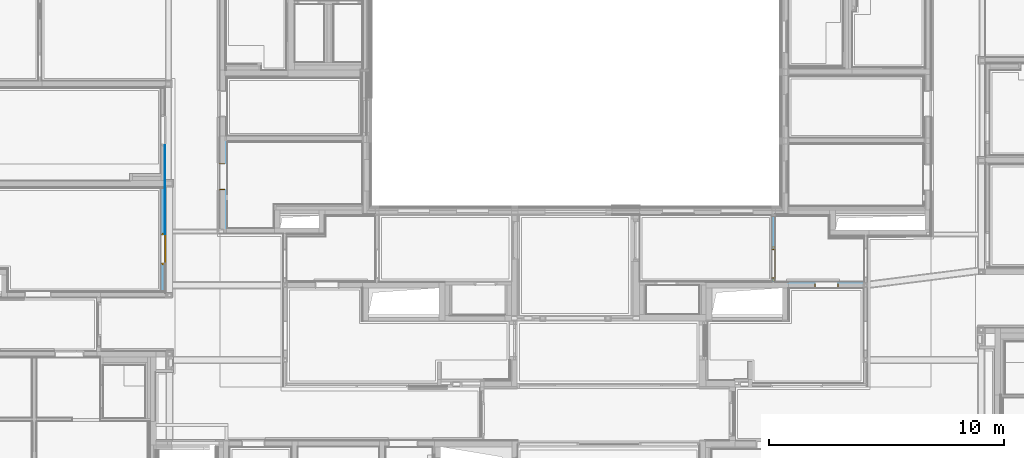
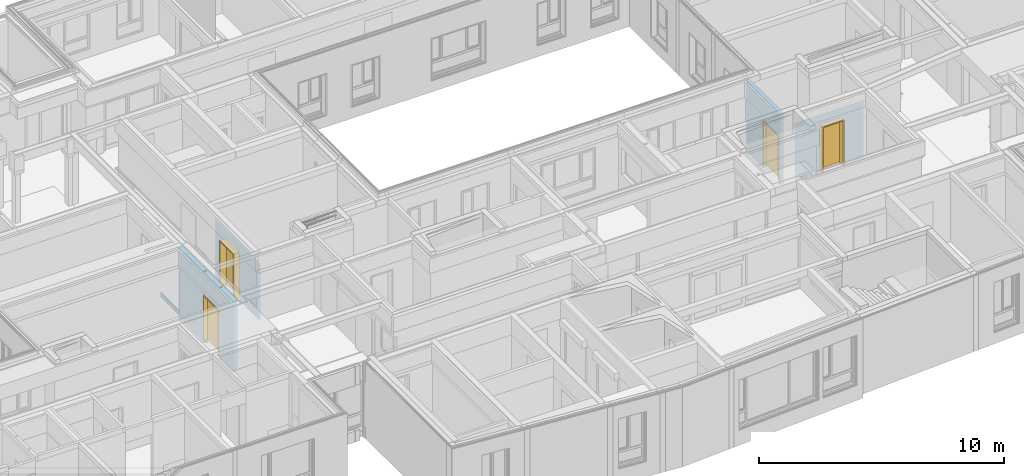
# One storey, part 88 of 222: 4 doors, 1 wall, 4 openings, plus 4 elements that do not belong to this part.
"""IFC4 building model written with IfcOpenShell, lengths in metres."""

from ifc_helpers import new_model, entity, si_unit, converted_unit, derived_unit, frame, frame_2d, origin, origin_with_axes, place, context, subcontext, project, spatial, polyline, rectangle, outline, extrude, faceted_brep, source, transform, mapped, material, type_object, element, fill, save


model = new_model("IFC4")

# Units and contexts
model_context = context("Model", 3, precision=1e-05, world=origin())
body_context = subcontext(model_context, "Body", "Model", "MODEL_VIEW")
ifc_project = project(units=[si_unit("LENGTHUNIT", "METRE"), si_unit("AREAUNIT", "SQUARE_METRE"), si_unit("VOLUMEUNIT", "CUBIC_METRE"), si_unit("MASSUNIT", "GRAM", prefix="KILO"), converted_unit("PLANEANGLEUNIT", "DEGREE", entity("IfcPlaneAngleMeasure", 0.0174532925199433), si_unit("PLANEANGLEUNIT", "RADIAN"), dimensions=[0, 0, 0, 0, 0, 0, 0]), derived_unit("THERMALTRANSMITTANCEUNIT", [(si_unit("POWERUNIT", "WATT"), 1), (si_unit("THERMODYNAMICTEMPERATUREUNIT", "KELVIN"), -1), (si_unit("LENGTHUNIT", "METRE"), -2)]), derived_unit("VOLUMETRICFLOWRATEUNIT", [(si_unit("LENGTHUNIT", "METRE"), 3), (converted_unit("TIMEUNIT", "hour", entity("IfcTimeMeasure", 3600.0), si_unit("TIMEUNIT", "SECOND"), dimensions=[0, 0, 1, 0, 0, 0, 0]), -1), (si_unit("LENGTHUNIT", "METRE"), -1)])], contexts=[model_context])

# Site, building, storey
site_placement = place(None, origin())
site = spatial("IfcSite", under=ifc_project, at=site_placement, Name="Psychiatrie Neubau Wunstorf", CompositionType="ELEMENT")
building_placement = place(site_placement, origin())
building = spatial("IfcBuilding", under=site, at=building_placement, Name="Neubau H2 Stationsgebäude", CompositionType="ELEMENT")
storey_placement = place(building_placement, frame((0.0, 0.0, 3.6)))
storey = spatial("IfcBuildingStorey", under=building, at=storey_placement, Name="H2 Ebene +1", CompositionType="ELEMENT", Elevation=3.6)

# Wall, opening, door
ifc_material_1 = material(Name="WI-LB")
wall_1_placement = place(storey_placement, frame((61.35, 10.0739996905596, 0.0), z_axis=(0.0, 0.0, 1.0), x_axis=(0.0, -1.0, 0.0)))
wall_1 = element("IfcWall", 1, at=wall_1_placement, inside=storey, material=ifc_material_1, context=body_context, shape_type="SweptSolid", body=[
    extrude(rectangle(XDim=2.799, YDim=0.15, at=frame_2d((1.3995, 0.075), x_axis=(1.0, 0.0))), origin_with_axes(), (0.0, 0.0, 1.0), 3.55),
])
opening_1_placement = place(wall_1_placement, frame((2.649, 0.15, 0.0), z_axis=(0.0, -1.0, 0.0), x_axis=(0.0, 0.0, 1.0)))
opening_1 = element("IfcOpeningElement", 2, at=opening_1_placement, cuts=wall_1, Name="Türöffnung", ObjectType="Opening", context=body_context, shape_type="SweptSolid", body=[
    extrude(outline(polyline([(2.41, 1.26), (2.41, 0.0), (0.0, 0.0), (0.0, 1.26), (2.41, 1.26)])), origin_with_axes(), (0.0, 0.0, 1.0), 0.15),
])
ifc_material_2 = material(Name="TI-1F-UZ-D")
door_type_1 = type_object("IfcDoorType", Name="SMT", OperationType="SINGLE_SWING_RIGHT", ParameterTakesPrecedence=False, PredefinedType="DOOR")
shared_shape_1 = source(origin_with_axes(), body_context, "Body", "Brep", [
    faceted_brep([(-0.124999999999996, 0.0249999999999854, 0.0), (-0.0249999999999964, 0.0249999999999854, 0.0), (-0.0249999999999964, 0.124999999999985, 0.0), (-0.124999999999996, 0.124999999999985, 0.0), (-0.124999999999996, 0.124999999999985, 3.55), (-0.0249999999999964, 0.124999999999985, 3.55), (-0.0249999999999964, 0.0249999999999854, 3.55), (-0.124999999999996, 0.0249999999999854, 3.55)], [[[0, 1, 2, 3]], [[4, 5, 6, 7]], [[3, 4, 7, 0]], [[2, 5, 4, 3]], [[1, 6, 5, 2]], [[0, 7, 6, 1]]], orient=[[False], [False], [False], [False], [False], [False]]),
    faceted_brep([(1.285, 0.0249999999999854, 0.0), (1.385, 0.0249999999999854, 0.0), (1.385, 0.124999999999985, 0.0), (1.285, 0.124999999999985, 0.0), (1.285, 0.124999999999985, 3.55), (1.385, 0.124999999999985, 3.55), (1.385, 0.0249999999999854, 3.55), (1.285, 0.0249999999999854, 3.55)], [[[0, 1, 2, 3]], [[4, 5, 6, 7]], [[3, 4, 7, 0]], [[2, 5, 4, 3]], [[1, 6, 5, 2]], [[0, 7, 6, 1]]], orient=[[False], [False], [False], [False], [False], [False]]),
    faceted_brep([(-0.0249999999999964, 0.0249999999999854, 2.435), (1.285, 0.0249999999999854, 2.435), (1.285, 0.124999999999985, 2.435), (-0.0249999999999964, 0.124999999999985, 2.435), (-0.0249999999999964, 0.124999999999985, 2.535), (1.285, 0.124999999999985, 2.535), (1.285, 0.0249999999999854, 2.535), (-0.0249999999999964, 0.0249999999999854, 2.535)], [[[0, 1, 2, 3]], [[4, 5, 6, 7]], [[3, 4, 7, 0]], [[2, 5, 4, 3]], [[1, 6, 5, 2]], [[0, 7, 6, 1]]], orient=[[False], [False], [False], [False], [False], [False]]),
])
shared_shape_2 = source(origin_with_axes(), body_context, "Body", "Brep", [
    faceted_brep([(1.26, -0.0150000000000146, 2.41), (1.26, -0.0150000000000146, 0.15), (1.22, -0.0150000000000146, 0.15), (1.22, -0.0150000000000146, 2.41), (1.26, 0.164999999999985, 0.15), (1.26, 0.164999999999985, 2.41), (1.22, 0.164999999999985, 2.41), (1.22, 0.164999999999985, 0.15)], [[[0, 1, 2, 3]], [[4, 5, 6, 7]], [[1, 0, 5, 4]], [[2, 1, 4, 7]], [[3, 2, 7, 6]], [[0, 3, 6, 5]]], orient=[[False], [False], [False], [False], [False], [False]]),
    faceted_brep([(1.26, -0.0150000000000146, 2.425), (1.275, -0.0150000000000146, 2.425), (1.275, -0.0150000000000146, 0.15), (1.26, -0.0150000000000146, 0.15), (1.26, 0.0, 0.15), (1.275, 0.0, 0.15), (1.275, 0.0, 2.425), (1.26, 0.0, 2.425)], [[[0, 1, 2, 3]], [[4, 5, 6, 7]], [[3, 4, 7, 0]], [[2, 5, 4, 3]], [[1, 6, 5, 2]], [[0, 7, 6, 1]]], orient=[[False], [False], [False], [False], [False], [False]]),
    faceted_brep([(1.26, 0.149999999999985, 2.425), (1.275, 0.149999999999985, 2.425), (1.275, 0.149999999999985, 0.15), (1.26, 0.149999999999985, 0.15), (1.26, 0.164999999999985, 0.15), (1.275, 0.164999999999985, 0.15), (1.275, 0.164999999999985, 2.425), (1.26, 0.164999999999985, 2.425)], [[[0, 1, 2, 3]], [[4, 5, 6, 7]], [[3, 4, 7, 0]], [[2, 5, 4, 3]], [[1, 6, 5, 2]], [[0, 7, 6, 1]]], orient=[[False], [False], [False], [False], [False], [False]]),
    faceted_brep([(0.0400000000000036, -0.0150000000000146, 2.41), (0.0400000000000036, -0.0150000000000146, 0.15), (0.0, -0.0150000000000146, 0.15), (0.0, -0.0150000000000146, 2.41), (0.0400000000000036, 0.164999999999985, 0.15), (0.0400000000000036, 0.164999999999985, 2.41), (0.0, 0.164999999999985, 2.41), (0.0, 0.164999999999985, 0.15)], [[[0, 1, 2, 3]], [[4, 5, 6, 7]], [[1, 0, 5, 4]], [[2, 1, 4, 7]], [[3, 2, 7, 6]], [[0, 3, 6, 5]]], orient=[[False], [False], [False], [False], [False], [False]]),
    faceted_brep([(0.0, -0.0150000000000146, 2.425), (0.0, -0.0150000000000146, 0.15), (-0.0149999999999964, -0.0150000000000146, 0.15), (-0.0149999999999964, -0.0150000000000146, 2.425), (0.0, 0.0, 0.15), (0.0, 0.0, 2.425), (-0.0149999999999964, 0.0, 2.425), (-0.0149999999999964, 0.0, 0.15)], [[[0, 1, 2, 3]], [[4, 5, 6, 7]], [[1, 0, 5, 4]], [[2, 1, 4, 7]], [[3, 2, 7, 6]], [[0, 3, 6, 5]]], orient=[[False], [False], [False], [False], [False], [False]]),
    faceted_brep([(0.0, 0.149999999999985, 2.425), (0.0, 0.149999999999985, 0.15), (-0.0149999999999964, 0.149999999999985, 0.15), (-0.0149999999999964, 0.149999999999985, 2.425), (0.0, 0.164999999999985, 0.15), (0.0, 0.164999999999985, 2.425), (-0.0149999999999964, 0.164999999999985, 2.425), (-0.0149999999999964, 0.164999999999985, 0.15)], [[[0, 1, 2, 3]], [[4, 5, 6, 7]], [[1, 0, 5, 4]], [[2, 1, 4, 7]], [[3, 2, 7, 6]], [[0, 3, 6, 5]]], orient=[[False], [False], [False], [False], [False], [False]]),
    faceted_brep([(1.22, -0.0150000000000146, 2.41), (1.22, -0.0150000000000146, 2.37), (0.0400000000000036, -0.0150000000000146, 2.37), (0.0400000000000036, -0.0150000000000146, 2.41), (1.22, 0.164999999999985, 2.37), (1.22, 0.164999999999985, 2.41), (0.0400000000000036, 0.164999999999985, 2.41), (0.0400000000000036, 0.164999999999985, 2.37)], [[[0, 1, 2, 3]], [[4, 5, 6, 7]], [[1, 0, 5, 4]], [[2, 1, 4, 7]], [[3, 2, 7, 6]], [[0, 3, 6, 5]]], orient=[[False], [False], [False], [False], [False], [False]]),
    faceted_brep([(1.26, -0.0150000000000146, 2.425), (1.26, -0.0150000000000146, 2.41), (0.0, -0.0150000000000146, 2.41), (0.0, -0.0150000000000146, 2.425), (1.26, 0.0, 2.41), (1.26, 0.0, 2.425), (0.0, 0.0, 2.425), (0.0, 0.0, 2.41)], [[[0, 1, 2, 3]], [[4, 5, 6, 7]], [[1, 0, 5, 4]], [[2, 1, 4, 7]], [[3, 2, 7, 6]], [[0, 3, 6, 5]]], orient=[[False], [False], [False], [False], [False], [False]]),
    faceted_brep([(1.26, 0.149999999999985, 2.425), (1.26, 0.149999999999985, 2.41), (0.0, 0.149999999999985, 2.41), (0.0, 0.149999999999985, 2.425), (1.26, 0.164999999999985, 2.41), (1.26, 0.164999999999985, 2.425), (0.0, 0.164999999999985, 2.425), (0.0, 0.164999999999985, 2.41)], [[[0, 1, 2, 3]], [[4, 5, 6, 7]], [[1, 0, 5, 4]], [[2, 1, 4, 7]], [[3, 2, 7, 6]], [[0, 3, 6, 5]]], orient=[[False], [False], [False], [False], [False], [False]]),
    faceted_brep([(1.235, 0.115999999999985, 2.385), (1.235, 0.115999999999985, 0.15), (0.0250000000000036, 0.115999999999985, 0.15), (0.0250000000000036, 0.115999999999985, 2.385), (1.235, 0.165999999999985, 0.15), (1.235, 0.165999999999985, 2.385), (0.0250000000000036, 0.165999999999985, 2.385), (0.0250000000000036, 0.165999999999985, 0.15)], [[[0, 1, 2, 3]], [[4, 5, 6, 7]], [[1, 0, 5, 4]], [[2, 1, 4, 7]], [[3, 2, 7, 6]], [[0, 3, 6, 5]]], orient=[[False], [False], [False], [False], [False], [False]]),
])
door_1_placement = place(opening_1_placement, frame((0.0, 1.26, 0.15), z_axis=(1.0, 0.0, 0.0), x_axis=(0.0, -1.0, 0.0)))
door_1 = element("IfcDoor", 3, at=door_1_placement, inside=storey, type_object=door_type_1, material=ifc_material_2, Name="SMT", OverallHeight=2.41, OverallWidth=1.26, context=body_context, shape_type="MappedRepresentation", body=[
    mapped(shared_shape_1, transform((0.0, 0.0, 0.0), x_axis=(1.0, 0.0, 0.0), y_axis=(0.0, 1.0, 0.0), z_axis=(0.0, 0.0, 1.0), scale=1.0)),
    mapped(shared_shape_2, transform((0.0, 0.0, 0.0), x_axis=(1.0, 0.0, 0.0), y_axis=(0.0, 1.0, 0.0), z_axis=(0.0, 0.0, 1.0), scale=1.0)),
])
fill(opening_1, door_1)

ifc_material_3 = material(Name="WI-LB")
wall_2_placement = place(storey_placement, frame((65.2449963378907, 7.29499969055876, 0.0), z_axis=(0.0, 0.0, 1.0), x_axis=(-1.0, 0.0, 0.0)))
wall_2 = element("IfcWall", 4, at=wall_2_placement, inside=storey, material=ifc_material_3, context=body_context, shape_type="SweptSolid", body=[
    extrude(rectangle(XDim=3.19499633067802, YDim=0.04, at=frame_2d((1.59749816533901, 0.02), x_axis=(1.0, 0.0))), origin_with_axes(), (0.0, 0.0, 1.0), 2.85),
])
opening_2_placement = place(wall_2_placement, frame((1.05999633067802, 0.0, 0.0), z_axis=(0.0, 1.0, 0.0), x_axis=(0.0, 0.0, 1.0)))
opening_2 = element("IfcOpeningElement", 5, at=opening_2_placement, cuts=wall_2, Name="Türöffnung", ObjectType="Opening", context=body_context, shape_type="SweptSolid", body=[
    extrude(outline(polyline([(2.41, 1.01), (2.41, 0.0), (0.0, 0.0), (0.0, 1.01), (2.41, 1.01)])), origin_with_axes(), (0.0, 0.0, 1.0), 0.04),
])
ifc_material_4 = material(Name="TI-1F-UZ-ZK")
door_type_2 = type_object("IfcDoorType", Name="SMT", OperationType="SLIDING_TO_RIGHT", ParameterTakesPrecedence=False, PredefinedType="DOOR")
shared_shape_3 = source(origin_with_axes(), body_context, "Body", "Brep", [
    faceted_brep([(0.0, -0.015, 2.41), (0.04, -0.015, 2.41), (0.04, -0.015, 0.15), (0.0, -0.015, 0.15), (0.0, 0.287, 0.15), (0.04, 0.287, 0.15), (0.04, 0.287, 2.41), (0.0, 0.287, 2.41)], [[[0, 1, 2, 3]], [[4, 5, 6, 7]], [[3, 4, 7, 0]], [[2, 5, 4, 3]], [[1, 6, 5, 2]], [[0, 7, 6, 1]]], orient=[[False], [False], [False], [False], [False], [False]]),
    faceted_brep([(0.0, -0.015, 2.425), (0.0, -0.015, 0.15), (-0.015, -0.015, 0.15), (-0.015, -0.015, 2.425), (0.0, 0.0, 0.15), (0.0, 0.0, 2.425), (-0.015, 0.0, 2.425), (-0.015, 0.0, 0.15)], [[[0, 1, 2, 3]], [[4, 5, 6, 7]], [[1, 0, 5, 4]], [[2, 1, 4, 7]], [[3, 2, 7, 6]], [[0, 3, 6, 5]]], orient=[[False], [False], [False], [False], [False], [False]]),
    faceted_brep([(0.0, 0.272, 2.425), (0.0, 0.272, 0.15), (-0.015, 0.272, 0.15), (-0.015, 0.272, 2.425), (0.0, 0.287, 0.15), (0.0, 0.287, 2.425), (-0.015, 0.287, 2.425), (-0.015, 0.287, 0.15)], [[[0, 1, 2, 3]], [[4, 5, 6, 7]], [[1, 0, 5, 4]], [[2, 1, 4, 7]], [[3, 2, 7, 6]], [[0, 3, 6, 5]]], orient=[[False], [False], [False], [False], [False], [False]]),
    faceted_brep([(0.97, -0.0150000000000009, 2.41), (1.01, -0.0150000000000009, 2.41), (1.01, -0.015, 0.15), (0.97, -0.015, 0.15), (0.97, 0.287, 0.15), (1.01, 0.287, 0.15), (1.01, 0.286999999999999, 2.41), (0.97, 0.286999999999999, 2.41)], [[[0, 1, 2, 3]], [[4, 5, 6, 7]], [[3, 4, 7, 0]], [[2, 5, 4, 3]], [[1, 6, 5, 2]], [[0, 7, 6, 1]]], orient=[[False], [False], [False], [False], [False], [False]]),
    faceted_brep([(1.01, -0.0150000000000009, 2.425), (1.025, -0.0150000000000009, 2.425), (1.025, -0.015, 0.15), (1.01, -0.015, 0.15), (1.01, 0.0, 0.15), (1.025, 0.0, 0.15), (1.025, 0.0, 2.425), (1.01, 0.0, 2.425)], [[[0, 1, 2, 3]], [[4, 5, 6, 7]], [[3, 4, 7, 0]], [[2, 5, 4, 3]], [[1, 6, 5, 2]], [[0, 7, 6, 1]]], orient=[[False], [False], [False], [False], [False], [False]]),
    faceted_brep([(1.01, 0.271999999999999, 2.425), (1.025, 0.271999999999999, 2.425), (1.025, 0.272, 0.15), (1.01, 0.272, 0.15), (1.01, 0.287, 0.15), (1.025, 0.287, 0.15), (1.025, 0.286999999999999, 2.425), (1.01, 0.286999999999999, 2.425)], [[[0, 1, 2, 3]], [[4, 5, 6, 7]], [[3, 4, 7, 0]], [[2, 5, 4, 3]], [[1, 6, 5, 2]], [[0, 7, 6, 1]]], orient=[[False], [False], [False], [False], [False], [False]]),
    faceted_brep([(0.04, -0.015, 2.41), (0.97, -0.0150000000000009, 2.41), (0.97, -0.0150000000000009, 2.37), (0.04, -0.015, 2.37), (0.04, 0.287, 2.37), (0.97, 0.286999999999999, 2.37), (0.97, 0.286999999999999, 2.41), (0.04, 0.287, 2.41)], [[[0, 1, 2, 3]], [[4, 5, 6, 7]], [[3, 4, 7, 0]], [[2, 5, 4, 3]], [[1, 6, 5, 2]], [[0, 7, 6, 1]]], orient=[[False], [False], [False], [False], [False], [False]]),
    faceted_brep([(0.0, -0.015, 2.425), (1.01, -0.0150000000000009, 2.425), (1.01, -0.0150000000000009, 2.41), (0.0, -0.015, 2.41), (0.0, 0.0, 2.41), (1.01, 0.0, 2.41), (1.01, 0.0, 2.425), (0.0, 0.0, 2.425)], [[[0, 1, 2, 3]], [[4, 5, 6, 7]], [[3, 4, 7, 0]], [[2, 5, 4, 3]], [[1, 6, 5, 2]], [[0, 7, 6, 1]]], orient=[[False], [False], [False], [False], [False], [False]]),
    faceted_brep([(0.0, 0.272, 2.425), (1.01, 0.271999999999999, 2.425), (1.01, 0.271999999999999, 2.41), (0.0, 0.272, 2.41), (0.0, 0.287, 2.41), (1.01, 0.286999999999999, 2.41), (1.01, 0.286999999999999, 2.425), (0.0, 0.287, 2.425)], [[[0, 1, 2, 3]], [[4, 5, 6, 7]], [[3, 4, 7, 0]], [[2, 5, 4, 3]], [[1, 6, 5, 2]], [[0, 7, 6, 1]]], orient=[[False], [False], [False], [False], [False], [False]]),
    faceted_brep([(0.025, -0.085, 2.385), (0.985, -0.0850000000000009, 2.385), (0.985, -0.085, 0.15), (0.025, -0.085, 0.15), (0.025, -0.035, 0.15), (0.985, -0.035, 0.15), (0.985, -0.0350000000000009, 2.385), (0.025, -0.035, 2.385)], [[[0, 1, 2, 3]], [[4, 5, 6, 7]], [[3, 4, 7, 0]], [[2, 5, 4, 3]], [[1, 6, 5, 2]], [[0, 7, 6, 1]]], orient=[[False], [False], [False], [False], [False], [False]]),
])
door_2_placement = place(opening_2_placement, frame((0.0, 0.0, 0.0), z_axis=(1.0, 0.0, 0.0), x_axis=(0.0, 1.0, 0.0)))
door_2 = element("IfcDoor", 6, at=door_2_placement, inside=storey, type_object=door_type_2, material=ifc_material_4, Name="SMT", OverallHeight=2.41, OverallWidth=1.01, context=body_context, shape_type="MappedRepresentation", body=[
    mapped(shared_shape_3, transform((0.0, 0.0, 0.0), x_axis=(1.0, 0.0, 0.0), y_axis=(0.0, 1.0, 0.0), z_axis=(0.0, 0.0, 1.0), scale=1.0)),
])
fill(opening_2, door_2)

ifc_material_5 = material(Name="WI-LB")
wall_3_placement = place(storey_placement, frame((38.2045, 9.55599624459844, 0.0), z_axis=(0.0, 0.0, 1.0), x_axis=(1.98715194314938e-15, 1.0, 0.0)))
wall_3 = element("IfcWall", 7, at=wall_3_placement, inside=storey, material=ifc_material_5, context=body_context, shape_type="SweptSolid", body=[
    extrude(rectangle(XDim=3.66150038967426, YDim=0.04, at=frame_2d((1.83075019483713, 0.02), x_axis=(1.0, 0.0))), origin_with_axes(), (0.0, 0.0, 1.0), 2.85),
])
opening_3_placement = place(wall_3_placement, frame((2.76900344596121, 0.0400000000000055, 0.0), z_axis=(0.0, -1.0, 0.0), x_axis=(0.0, 0.0, 1.0)))
opening_3 = element("IfcOpeningElement", 8, at=opening_3_placement, cuts=wall_3, Name="Türöffnung", ObjectType="Opening", context=body_context, shape_type="SweptSolid", body=[
    extrude(outline(polyline([(2.41, 1.135), (2.41, 0.0), (0.0, 0.0), (0.0, 1.135), (2.41, 1.135)])), origin_with_axes(), (0.0, 0.0, 1.0), 0.04),
])
ifc_material_6 = material(Name="TI-1F-UZ-ZK")
door_type_3 = type_object("IfcDoorType", Name="SMT", OperationType="SINGLE_SWING_RIGHT", ParameterTakesPrecedence=False, PredefinedType="DOOR")
shared_shape_4 = source(origin_with_axes(), body_context, "Body", "Brep", [
    faceted_brep([(0.0, -0.0150000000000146, 2.41), (0.0400000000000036, -0.0150000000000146, 2.41), (0.0400000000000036, -0.0150000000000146, 0.15), (0.0, -0.0150000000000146, 0.15), (0.0, 0.336999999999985, 0.15), (0.0400000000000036, 0.336999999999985, 0.15), (0.0400000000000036, 0.336999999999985, 2.41), (0.0, 0.336999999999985, 2.41)], [[[0, 1, 2, 3]], [[4, 5, 6, 7]], [[3, 4, 7, 0]], [[2, 5, 4, 3]], [[1, 6, 5, 2]], [[0, 7, 6, 1]]], orient=[[False], [False], [False], [False], [False], [False]]),
    faceted_brep([(0.0, -0.0150000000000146, 2.425), (0.0, -0.0150000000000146, 0.15), (-0.0149999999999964, -0.0150000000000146, 0.15), (-0.0149999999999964, -0.0150000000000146, 2.425), (0.0, 0.0, 0.15), (0.0, 0.0, 2.425), (-0.0149999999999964, 0.0, 2.425), (-0.0149999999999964, 0.0, 0.15)], [[[0, 1, 2, 3]], [[4, 5, 6, 7]], [[1, 0, 5, 4]], [[2, 1, 4, 7]], [[3, 2, 7, 6]], [[0, 3, 6, 5]]], orient=[[False], [False], [False], [False], [False], [False]]),
    faceted_brep([(0.0, 0.321999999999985, 2.425), (0.0, 0.321999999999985, 0.15), (-0.0149999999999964, 0.321999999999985, 0.15), (-0.0149999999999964, 0.321999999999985, 2.425), (0.0, 0.336999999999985, 0.15), (0.0, 0.336999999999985, 2.425), (-0.0149999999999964, 0.336999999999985, 2.425), (-0.0149999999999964, 0.336999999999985, 0.15)], [[[0, 1, 2, 3]], [[4, 5, 6, 7]], [[1, 0, 5, 4]], [[2, 1, 4, 7]], [[3, 2, 7, 6]], [[0, 3, 6, 5]]], orient=[[False], [False], [False], [False], [False], [False]]),
    faceted_brep([(1.095, -0.0150000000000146, 2.41), (1.135, -0.0150000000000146, 2.41), (1.135, -0.0150000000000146, 0.15), (1.095, -0.0150000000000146, 0.15), (1.095, 0.336999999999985, 0.15), (1.135, 0.336999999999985, 0.15), (1.135, 0.336999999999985, 2.41), (1.095, 0.336999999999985, 2.41)], [[[0, 1, 2, 3]], [[4, 5, 6, 7]], [[3, 4, 7, 0]], [[2, 5, 4, 3]], [[1, 6, 5, 2]], [[0, 7, 6, 1]]], orient=[[False], [False], [False], [False], [False], [False]]),
    faceted_brep([(1.135, -0.0150000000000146, 2.425), (1.15, -0.0150000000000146, 2.425), (1.15, -0.0150000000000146, 0.15), (1.135, -0.0150000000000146, 0.15), (1.135, 0.0, 0.15), (1.15, 0.0, 0.15), (1.15, 0.0, 2.425), (1.135, 0.0, 2.425)], [[[0, 1, 2, 3]], [[4, 5, 6, 7]], [[3, 4, 7, 0]], [[2, 5, 4, 3]], [[1, 6, 5, 2]], [[0, 7, 6, 1]]], orient=[[False], [False], [False], [False], [False], [False]]),
    faceted_brep([(1.135, 0.321999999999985, 2.425), (1.15, 0.321999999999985, 2.425), (1.15, 0.321999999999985, 0.15), (1.135, 0.321999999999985, 0.15), (1.135, 0.336999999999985, 0.15), (1.15, 0.336999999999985, 0.15), (1.15, 0.336999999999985, 2.425), (1.135, 0.336999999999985, 2.425)], [[[0, 1, 2, 3]], [[4, 5, 6, 7]], [[3, 4, 7, 0]], [[2, 5, 4, 3]], [[1, 6, 5, 2]], [[0, 7, 6, 1]]], orient=[[False], [False], [False], [False], [False], [False]]),
    faceted_brep([(0.0400000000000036, -0.0150000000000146, 2.41), (1.095, -0.0150000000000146, 2.41), (1.095, -0.0150000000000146, 2.37), (0.0400000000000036, -0.0150000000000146, 2.37), (0.0400000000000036, 0.336999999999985, 2.37), (1.095, 0.336999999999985, 2.37), (1.095, 0.336999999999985, 2.41), (0.0400000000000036, 0.336999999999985, 2.41)], [[[0, 1, 2, 3]], [[4, 5, 6, 7]], [[3, 4, 7, 0]], [[2, 5, 4, 3]], [[1, 6, 5, 2]], [[0, 7, 6, 1]]], orient=[[False], [False], [False], [False], [False], [False]]),
    faceted_brep([(0.0, -0.0150000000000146, 2.425), (1.135, -0.0150000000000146, 2.425), (1.135, -0.0150000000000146, 2.41), (0.0, -0.0150000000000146, 2.41), (0.0, 0.0, 2.41), (1.135, 0.0, 2.41), (1.135, 0.0, 2.425), (0.0, 0.0, 2.425)], [[[0, 1, 2, 3]], [[4, 5, 6, 7]], [[3, 4, 7, 0]], [[2, 5, 4, 3]], [[1, 6, 5, 2]], [[0, 7, 6, 1]]], orient=[[False], [False], [False], [False], [False], [False]]),
    faceted_brep([(0.0, 0.321999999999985, 2.425), (1.135, 0.321999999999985, 2.425), (1.135, 0.321999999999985, 2.41), (0.0, 0.321999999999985, 2.41), (0.0, 0.336999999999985, 2.41), (1.135, 0.336999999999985, 2.41), (1.135, 0.336999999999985, 2.425), (0.0, 0.336999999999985, 2.425)], [[[0, 1, 2, 3]], [[4, 5, 6, 7]], [[3, 4, 7, 0]], [[2, 5, 4, 3]], [[1, 6, 5, 2]], [[0, 7, 6, 1]]], orient=[[False], [False], [False], [False], [False], [False]]),
    faceted_brep([(0.0250000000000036, 0.287999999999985, 2.385), (1.11, 0.287999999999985, 2.385), (1.11, 0.287999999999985, 0.15), (0.0250000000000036, 0.287999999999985, 0.15), (0.0250000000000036, 0.337999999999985, 0.15), (1.11, 0.337999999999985, 0.15), (1.11, 0.337999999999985, 2.385), (0.0250000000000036, 0.337999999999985, 2.385)], [[[0, 1, 2, 3]], [[4, 5, 6, 7]], [[3, 4, 7, 0]], [[2, 5, 4, 3]], [[1, 6, 5, 2]], [[0, 7, 6, 1]]], orient=[[False], [False], [False], [False], [False], [False]]),
])
door_3_placement = place(opening_3_placement, frame((0.0, 0.0, -0.282), z_axis=(1.0, 0.0, 0.0), x_axis=(0.0, 1.0, 1.98715194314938e-15)))
door_3 = element("IfcDoor", 9, at=door_3_placement, inside=storey, type_object=door_type_3, material=ifc_material_6, Name="SMT", OverallHeight=2.41, OverallWidth=1.135, context=body_context, shape_type="MappedRepresentation", body=[
    mapped(shared_shape_4, transform((0.0, 0.0, 0.0), x_axis=(1.0, 0.0, 0.0), y_axis=(0.0, 1.0, 0.0), z_axis=(0.0, 0.0, 1.0), scale=1.0)),
])
fill(opening_3, door_3)

# Wall
wall_4_placement = place(storey_placement, frame((35.545, 9.30950090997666, -0.05)))
element("IfcWall", 10, at=wall_4_placement, inside=storey, Name="WV 1.1", context=body_context, shape_type="Brep", body=[
    faceted_brep([(0.0, 0.0, 0.0), (0.025, 0.0, 0.0), (0.025, 3.79, 0.0), (0.0, 3.79, 0.0), (0.025, 0.0, 0.25), (0.0, 0.0, 0.25), (0.0, 3.79, 0.25), (0.025, 3.79, 0.25)], [[[0, 1, 2, 3]], [[4, 5, 6, 7]], [[1, 0, 5, 4]], [[2, 1, 4, 7]], [[3, 2, 7, 6]], [[0, 3, 6, 5]]], orient=[[False], [False], [False], [False], [False], [False]]),
])

# Wall, opening, door
ifc_material_7 = material(Name="WI-LB")
wall_5_placement = place(storey_placement, frame((35.57, 6.88399999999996, 0.0), z_axis=(0.0, 0.0, 1.0), x_axis=(0.0, 1.0, 0.0)))
wall_5 = element("IfcWall", 11, at=wall_5_placement, inside=storey, material=ifc_material_7, context=body_context, shape_type="SweptSolid", body=[
    extrude(rectangle(XDim=4.47355754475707, YDim=0.19, at=frame_2d((2.23677877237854, 0.095), x_axis=(1.0, 0.0))), origin_with_axes(), (0.0, 0.0, 1.0), 3.55),
])
opening_4_placement = place(wall_5_placement, frame((2.42600413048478, 0.19, 0.0), z_axis=(0.0, -1.0, 0.0), x_axis=(0.0, 0.0, 1.0)))
opening_4 = element("IfcOpeningElement", 12, at=opening_4_placement, cuts=wall_5, Name="Türöffnung", ObjectType="Opening", context=body_context, shape_type="SweptSolid", body=[
    extrude(outline(polyline([(2.41, 1.26), (2.41, 0.0), (0.0, 0.0), (0.0, 1.26), (2.41, 1.26)])), origin_with_axes(), (0.0, 0.0, 1.0), 0.19),
])
ifc_material_8 = material(Name="TI-1F-UZ-D")
door_type_4 = type_object("IfcDoorType", Name="SMT", OperationType="SINGLE_SWING_RIGHT", ParameterTakesPrecedence=False, PredefinedType="DOOR")
shared_shape_5 = source(origin_with_axes(), body_context, "Body", "Brep", [
    faceted_brep([(-0.0499999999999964, 0.0449999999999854, 0.0), (0.0, 0.0449999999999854, 0.0), (0.0, 0.144999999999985, 0.0), (-0.0499999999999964, 0.144999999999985, 0.0), (-0.0499999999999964, 0.144999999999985, 3.55), (0.0, 0.144999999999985, 3.55), (0.0, 0.0449999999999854, 3.55), (-0.0499999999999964, 0.0449999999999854, 3.55)], [[[0, 1, 2, 3]], [[4, 5, 6, 7]], [[3, 4, 7, 0]], [[2, 5, 4, 3]], [[1, 6, 5, 2]], [[0, 7, 6, 1]]], orient=[[False], [False], [False], [False], [False], [False]]),
    faceted_brep([(1.26, 0.0449999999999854, 0.0), (1.31, 0.0449999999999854, 0.0), (1.31, 0.144999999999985, 0.0), (1.26, 0.144999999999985, 0.0), (1.26, 0.144999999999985, 3.55), (1.31, 0.144999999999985, 3.55), (1.31, 0.0449999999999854, 3.55), (1.26, 0.0449999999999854, 3.55)], [[[0, 1, 2, 3]], [[4, 5, 6, 7]], [[3, 4, 7, 0]], [[2, 5, 4, 3]], [[1, 6, 5, 2]], [[0, 7, 6, 1]]], orient=[[False], [False], [False], [False], [False], [False]]),
    faceted_brep([(0.0, 0.0449999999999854, 2.41), (1.26, 0.0449999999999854, 2.41), (1.26, 0.144999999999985, 2.41), (0.0, 0.144999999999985, 2.41), (0.0, 0.144999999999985, 2.46), (1.26, 0.144999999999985, 2.46), (1.26, 0.0449999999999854, 2.46), (0.0, 0.0449999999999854, 2.46)], [[[0, 1, 2, 3]], [[4, 5, 6, 7]], [[3, 4, 7, 0]], [[2, 5, 4, 3]], [[1, 6, 5, 2]], [[0, 7, 6, 1]]], orient=[[False], [False], [False], [False], [False], [False]]),
])
shared_shape_6 = source(origin_with_axes(), body_context, "Body", "Brep", [
    faceted_brep([(0.0, -0.0150000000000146, 2.41), (0.0400000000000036, -0.0150000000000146, 2.41), (0.0400000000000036, -0.0150000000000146, 0.15), (0.0, -0.0150000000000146, 0.15), (0.0, 0.204999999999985, 0.15), (0.0400000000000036, 0.204999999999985, 0.15), (0.0400000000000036, 0.204999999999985, 2.41), (0.0, 0.204999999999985, 2.41)], [[[0, 1, 2, 3]], [[4, 5, 6, 7]], [[3, 4, 7, 0]], [[2, 5, 4, 3]], [[1, 6, 5, 2]], [[0, 7, 6, 1]]], orient=[[False], [False], [False], [False], [False], [False]]),
    faceted_brep([(0.0, -0.0150000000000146, 2.425), (0.0, -0.0150000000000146, 0.15), (-0.0149999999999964, -0.0150000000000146, 0.15), (-0.0149999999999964, -0.0150000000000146, 2.425), (0.0, 0.0, 0.15), (0.0, 0.0, 2.425), (-0.0149999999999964, 0.0, 2.425), (-0.0149999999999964, 0.0, 0.15)], [[[0, 1, 2, 3]], [[4, 5, 6, 7]], [[1, 0, 5, 4]], [[2, 1, 4, 7]], [[3, 2, 7, 6]], [[0, 3, 6, 5]]], orient=[[False], [False], [False], [False], [False], [False]]),
    faceted_brep([(0.0, 0.189999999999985, 2.425), (0.0, 0.189999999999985, 0.15), (-0.0149999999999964, 0.189999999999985, 0.15), (-0.0149999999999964, 0.189999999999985, 2.425), (0.0, 0.204999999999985, 0.15), (0.0, 0.204999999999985, 2.425), (-0.0149999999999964, 0.204999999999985, 2.425), (-0.0149999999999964, 0.204999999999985, 0.15)], [[[0, 1, 2, 3]], [[4, 5, 6, 7]], [[1, 0, 5, 4]], [[2, 1, 4, 7]], [[3, 2, 7, 6]], [[0, 3, 6, 5]]], orient=[[False], [False], [False], [False], [False], [False]]),
    faceted_brep([(1.22, -0.0150000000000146, 2.41), (1.26, -0.0150000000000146, 2.41), (1.26, -0.0150000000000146, 0.15), (1.22, -0.0150000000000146, 0.15), (1.22, 0.204999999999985, 0.15), (1.26, 0.204999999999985, 0.15), (1.26, 0.204999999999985, 2.41), (1.22, 0.204999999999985, 2.41)], [[[0, 1, 2, 3]], [[4, 5, 6, 7]], [[3, 4, 7, 0]], [[2, 5, 4, 3]], [[1, 6, 5, 2]], [[0, 7, 6, 1]]], orient=[[False], [False], [False], [False], [False], [False]]),
    faceted_brep([(1.26, -0.0150000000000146, 2.425), (1.275, -0.0150000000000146, 2.425), (1.275, -0.0150000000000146, 0.15), (1.26, -0.0150000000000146, 0.15), (1.26, 0.0, 0.15), (1.275, 0.0, 0.15), (1.275, 0.0, 2.425), (1.26, 0.0, 2.425)], [[[0, 1, 2, 3]], [[4, 5, 6, 7]], [[3, 4, 7, 0]], [[2, 5, 4, 3]], [[1, 6, 5, 2]], [[0, 7, 6, 1]]], orient=[[False], [False], [False], [False], [False], [False]]),
    faceted_brep([(1.26, 0.189999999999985, 2.425), (1.275, 0.189999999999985, 2.425), (1.275, 0.189999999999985, 0.15), (1.26, 0.189999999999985, 0.15), (1.26, 0.204999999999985, 0.15), (1.275, 0.204999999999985, 0.15), (1.275, 0.204999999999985, 2.425), (1.26, 0.204999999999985, 2.425)], [[[0, 1, 2, 3]], [[4, 5, 6, 7]], [[3, 4, 7, 0]], [[2, 5, 4, 3]], [[1, 6, 5, 2]], [[0, 7, 6, 1]]], orient=[[False], [False], [False], [False], [False], [False]]),
    faceted_brep([(0.0400000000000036, -0.0150000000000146, 2.41), (1.22, -0.0150000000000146, 2.41), (1.22, -0.0150000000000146, 2.37), (0.0400000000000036, -0.0150000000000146, 2.37), (0.0400000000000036, 0.204999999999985, 2.37), (1.22, 0.204999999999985, 2.37), (1.22, 0.204999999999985, 2.41), (0.0400000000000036, 0.204999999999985, 2.41)], [[[0, 1, 2, 3]], [[4, 5, 6, 7]], [[3, 4, 7, 0]], [[2, 5, 4, 3]], [[1, 6, 5, 2]], [[0, 7, 6, 1]]], orient=[[False], [False], [False], [False], [False], [False]]),
    faceted_brep([(0.0, -0.0150000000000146, 2.425), (1.26, -0.0150000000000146, 2.425), (1.26, -0.0150000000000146, 2.41), (0.0, -0.0150000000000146, 2.41), (0.0, 0.0, 2.41), (1.26, 0.0, 2.41), (1.26, 0.0, 2.425), (0.0, 0.0, 2.425)], [[[0, 1, 2, 3]], [[4, 5, 6, 7]], [[3, 4, 7, 0]], [[2, 5, 4, 3]], [[1, 6, 5, 2]], [[0, 7, 6, 1]]], orient=[[False], [False], [False], [False], [False], [False]]),
    faceted_brep([(0.0, 0.189999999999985, 2.425), (1.26, 0.189999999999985, 2.425), (1.26, 0.189999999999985, 2.41), (0.0, 0.189999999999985, 2.41), (0.0, 0.204999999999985, 2.41), (1.26, 0.204999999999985, 2.41), (1.26, 0.204999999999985, 2.425), (0.0, 0.204999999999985, 2.425)], [[[0, 1, 2, 3]], [[4, 5, 6, 7]], [[3, 4, 7, 0]], [[2, 5, 4, 3]], [[1, 6, 5, 2]], [[0, 7, 6, 1]]], orient=[[False], [False], [False], [False], [False], [False]]),
    faceted_brep([(0.0250000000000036, 0.155999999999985, 2.385), (1.235, 0.155999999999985, 2.385), (1.235, 0.155999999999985, 0.15), (0.0250000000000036, 0.155999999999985, 0.15), (0.0250000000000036, 0.205999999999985, 0.15), (1.235, 0.205999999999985, 0.15), (1.235, 0.205999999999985, 2.385), (0.0250000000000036, 0.205999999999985, 2.385)], [[[0, 1, 2, 3]], [[4, 5, 6, 7]], [[3, 4, 7, 0]], [[2, 5, 4, 3]], [[1, 6, 5, 2]], [[0, 7, 6, 1]]], orient=[[False], [False], [False], [False], [False], [False]]),
])
door_4_placement = place(opening_4_placement, frame((0.0, 0.0, 0.0), z_axis=(1.0, 0.0, 0.0), x_axis=(0.0, 1.0, 0.0)))
door_4 = element("IfcDoor", 13, at=door_4_placement, inside=storey, type_object=door_type_4, material=ifc_material_8, Name="SMT", OverallHeight=2.41, OverallWidth=1.26, context=body_context, shape_type="MappedRepresentation", body=[
    mapped(shared_shape_5, transform((0.0, 0.0, 0.0), x_axis=(1.0, 0.0, 0.0), y_axis=(0.0, 1.0, 0.0), z_axis=(0.0, 0.0, 1.0), scale=1.0)),
    mapped(shared_shape_6, transform((0.0, 0.0, 0.0), x_axis=(1.0, 0.0, 0.0), y_axis=(0.0, 1.0, 0.0), z_axis=(0.0, 0.0, 1.0), scale=1.0)),
])
fill(opening_4, door_4)

save(model, "model.ifc")
